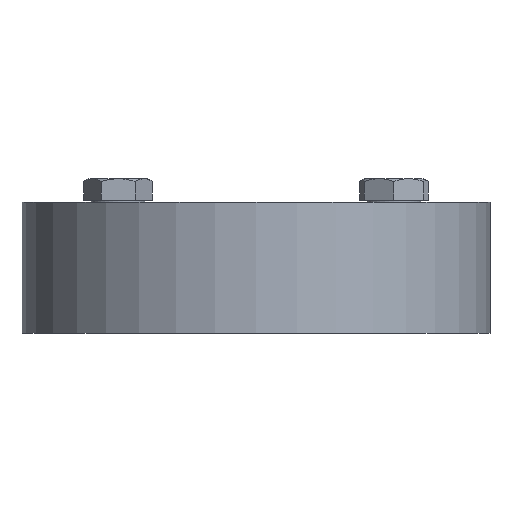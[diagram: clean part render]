
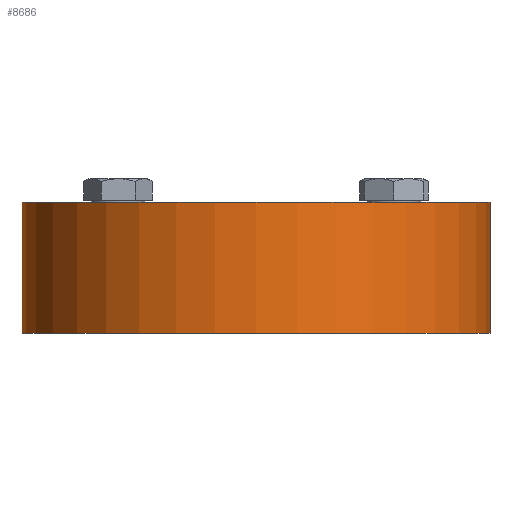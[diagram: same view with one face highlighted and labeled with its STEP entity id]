
A CAD part, front view. The second image highlights one B-rep face of the part: STEP entity #8686.
In plain terms, the highlighted cylindrical face has radius 75 mm (diameter 150 mm), a full revolution.
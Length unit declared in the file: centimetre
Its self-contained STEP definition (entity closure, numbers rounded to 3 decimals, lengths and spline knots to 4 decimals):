
#524=CYLINDRICAL_SURFACE('',#8997,7.5);
#573=FACE_BOUND('',#3563,.T.);
#3062=FACE_OUTER_BOUND('',#3562,.T.);
#3562=EDGE_LOOP('',(#7878));
#3563=EDGE_LOOP('',(#7879));
#3622=CIRCLE('',#8981,7.5);
#3627=CIRCLE('',#8998,7.5);
#4390=VERTEX_POINT('',#14992);
#4395=VERTEX_POINT('',#15014);
#5558=EDGE_CURVE('',#4390,#4390,#3622,.T.);
#5563=EDGE_CURVE('',#4395,#4395,#3627,.T.);
#7878=ORIENTED_EDGE('',*,*,#5563,.F.);
#7879=ORIENTED_EDGE('',*,*,#5558,.F.);
#8686=ADVANCED_FACE('',(#3062,#573),#524,.T.);
#8981=AXIS2_PLACEMENT_3D('',#14993,#10310,#10311);
#8997=AXIS2_PLACEMENT_3D('',#15013,#10342,#10343);
#8998=AXIS2_PLACEMENT_3D('',#15015,#10344,#10345);
#10310=DIRECTION('center_axis',(0.,0.,
1.));
#10311=DIRECTION('ref_axis',(-1.,0.,0.));
#10342=DIRECTION('center_axis',(0.,0.,
1.));
#10343=DIRECTION('ref_axis',(-1.,0.,0.));
#10344=DIRECTION('center_axis',(0.,0.,-1.));
#10345=DIRECTION('ref_axis',(-1.,0.,0.));
#14992=CARTESIAN_POINT('',(7.5,0.,3.));
#14993=CARTESIAN_POINT('Origin',(0.,0.,
3.));
#15013=CARTESIAN_POINT('Origin',(0.,0.,
2.4));
#15014=CARTESIAN_POINT('',(7.5,0.,-1.2));
#15015=CARTESIAN_POINT('Origin',(0.,0.,-1.2));
